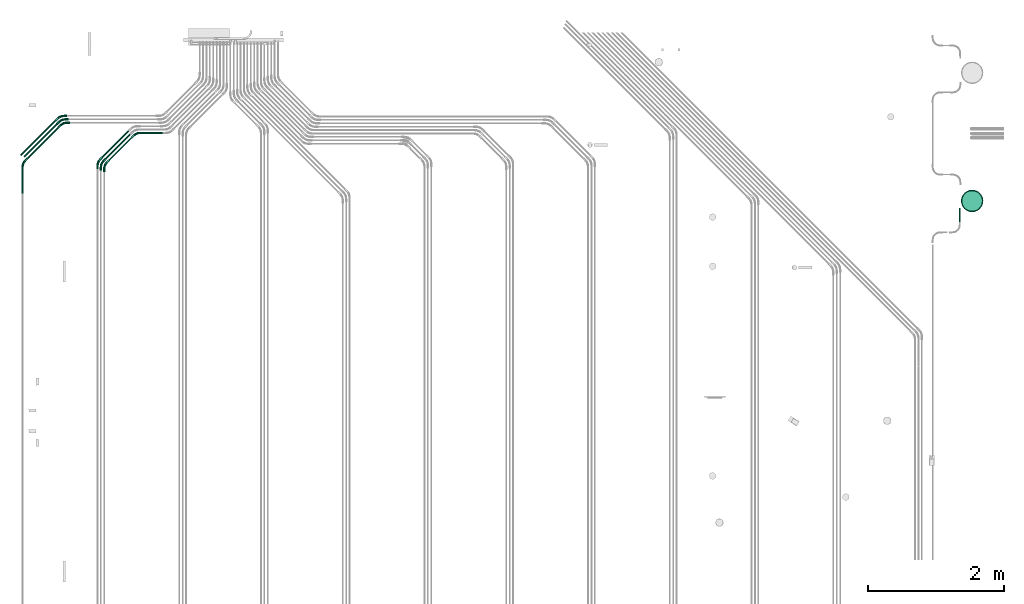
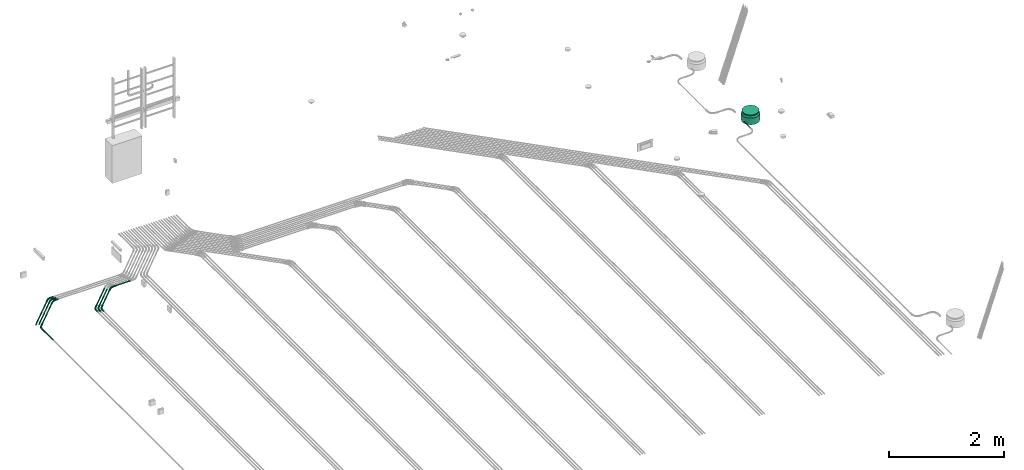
# One storey, part 15 of 51: 9 flow segments, 8 flow fittings, 1 flow terminal.
"""IFC2X3 building model written with IfcOpenShell, lengths in millimetres."""

from ifc_helpers import new_model, entity, si_unit, converted_unit, derived_unit, direction, frame, origin_with_axes, origin_2d_with_axis, place, context, subcontext, project, spatial, hollow_circle, extrude, open_shell, surface_model, source, transform, mapped, type_object, element, save


model = new_model("IFC2X3")

# Units and contexts
model_context = context("Model", 3, precision=0.01, world=frame((0.0, 4.29681676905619e-09, 0.0)), true_north=direction((4.01073788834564e-13, 1.0)))
plan_context = context("Plan", 3, precision=0.01, world=frame((0.0, 4.29681676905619e-09, 0.0)), true_north=direction((4.01073788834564e-13, 1.0)))
body_context = subcontext(model_context, "Body", "Model", "MODEL_VIEW")
ifc_project = project(units=[converted_unit("PLANEANGLEUNIT", "DEGREE", entity("IfcPositiveLengthMeasure", 0.0174532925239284), si_unit("PLANEANGLEUNIT", "RADIAN"), dimensions=[0, 0, 0, 0, 0, 0, 0]), si_unit("AREAUNIT", "SQUARE_METRE"), si_unit("LENGTHUNIT", "METRE", prefix="MILLI"), si_unit("MASSUNIT", "GRAM", prefix="KILO"), si_unit("POWERUNIT", "WATT"), si_unit("PRESSUREUNIT", "PASCAL"), si_unit("FORCEUNIT", "NEWTON", prefix="KILO"), si_unit("ELECTRICVOLTAGEUNIT", "VOLT"), si_unit("ELECTRICCURRENTUNIT", "AMPERE"), si_unit("THERMODYNAMICTEMPERATUREUNIT", "DEGREE_CELSIUS"), si_unit("TIMEUNIT", "SECOND"), si_unit("VOLUMEUNIT", "CUBIC_METRE"), derived_unit("LINEARVELOCITYUNIT", [(si_unit("LENGTHUNIT", "METRE"), 1), (si_unit("TIMEUNIT", "SECOND"), -1)]), derived_unit("VOLUMETRICFLOWRATEUNIT", [(si_unit("VOLUMEUNIT", "CUBIC_METRE"), 1), (si_unit("TIMEUNIT", "SECOND"), -1)]), derived_unit("THERMALTRANSMITTANCEUNIT", [(si_unit("POWERUNIT", "WATT"), 1), (si_unit("THERMODYNAMICTEMPERATUREUNIT", "KELVIN"), -1), (si_unit("AREAUNIT", "SQUARE_METRE"), -1)]), derived_unit("SOUNDPRESSUREUNIT", [(si_unit("PRESSUREUNIT", "PASCAL"), 1)])], contexts=[model_context, plan_context])

# Site, building, storey
site_placement = place(None, frame((0.0, -4.29681676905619e-09, 0.0), z_axis=(0.0, 0.0, 1.0), x_axis=(1.0, 0.0, 0.0)))
site = spatial("IfcSite", under=ifc_project, at=site_placement, Name="ENGM", CompositionType="ELEMENT")
building_placement = place(site_placement, frame((0.0, 4.29681676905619e-09, 0.0), z_axis=(0.0, 0.0, 1.0), x_axis=(1.0, 0.0, 0.0)))
building = spatial("IfcBuilding", under=site, at=building_placement, Name="TI", CompositionType="ELEMENT")
storey_placement = place(building_placement, frame((0.0, 0.0, 210900.0), z_axis=(0.0, 0.0, 1.0), x_axis=(1.0, 0.0, 0.0)))
storey = spatial("IfcBuildingStorey", under=building, at=storey_placement, Name="Nivå F", CompositionType="ELEMENT", Elevation=210900.0)

# Flow fittings
cable_carrier_fitting_type = type_object("IfcCableCarrierFittingType", Name="Trekkerør, glatt bend", PredefinedType="BEND")
shared_shape_1 = source(origin_with_axes(), body_context, "Body", "SurfaceModel", [
    surface_model("IfcShellBasedSurfaceModel", [(-101.90646, 8.46055, -14.6541), (-101.90646, 4.3795, -16.34452), (-101.90646, 0.0, -16.92109), (-101.90646, 14.6541, -8.46055), (-101.90646, -8.46055, -14.6541), (-101.90646, 11.96502, -11.96502), (-101.90646, -16.92109, 0.0), (-101.90646, -16.34452, 4.3795), (-101.90646, -11.96502, -11.96502), (-101.90646, -14.6541, -8.46055), (-101.90646, -4.3795, -16.34452), (-101.90646, -16.34452, -4.3795), (-101.90646, 16.92109, 0.0), (-101.90646, 16.34452, -4.3795), (-101.90646, 16.34452, 4.3795), (-101.90646, 14.6541, 8.46055), (-101.90646, 8.46055, 14.6541), (-101.90646, 11.96502, 11.96502), (-101.90646, 0.0, 16.92109), (-101.90646, 4.3795, 16.34452), (-101.90646, -11.96502, 11.96502), (-101.90646, -8.46055, 14.6541), (-101.90646, -14.6541, 8.46055), (-101.90646, -4.3795, 16.34452), (-54.58849, -16.92109, 0.0), (-54.58849, -16.34452, 4.3795), (-54.58849, -14.6541, 8.46055), (-54.58849, -11.96502, 11.96502), (-54.58849, -8.46055, 14.6541), (-54.58849, -4.3795, 16.34452), (-54.58849, 0.0, 16.92109), (-54.58849, 4.3795, 16.34452), (-54.58849, 8.46055, 14.6541), (-54.58849, 11.96502, 11.96502), (-54.58849, 14.6541, 8.46055), (-54.58849, 16.34452, 4.3795), (-54.58849, 16.92109, 0.0), (-54.58849, 16.34452, -4.3795), (-54.58849, 14.6541, -8.46055), (-54.58849, 11.96502, -11.96502), (-54.58849, 8.46055, -14.6541), (-54.58849, 4.3795, -16.34452), (-54.58849, 0.0, -16.92109), (-54.58849, -4.3795, -16.34452), (-54.58849, -8.46055, -14.6541), (-54.58849, -11.96502, -11.96502), (-54.58849, -14.6541, -8.46055), (-54.58849, -16.34452, -4.3795), (10.9245, -1.31078, 3.47544), (-13.36235, -10.76027, 3.27049), (-16.09967, -11.85394, 0.0), (41.69667, 35.50312, 16.34452), (38.59989, 38.59989, 16.92109), (22.26214, 21.90343, 16.76352), (-19.66365, -2.12805, 15.57779), (-29.58477, -8.16493, 13.36262), (-20.60685, -9.47816, 10.19127), (-34.07223, 17.39409, 6.62821), (-10.25807, 24.76518, 5.65746), (-29.40446, 19.36118, 3.4046), (-3.22837, 7.79397, 16.74683), (-31.22977, -0.25365, 16.76352), (35.50312, 41.69667, 16.34452), (32.61738, 44.5824, 14.6541), (17.47707, 29.1678, 15.66764), (-16.62388, 19.5721, 10.43045), (-25.92736, 13.63005, 13.4985), (5.09993, 25.84703, 13.50914), (-21.17216, 6.44783, 16.79403), (19.76619, 3.00218, 0.0), (-6.56017, 15.83764, 15.71089), (-32.9829, 8.26659, 15.66764), (19.50033, 6.79523, 10.18462), (48.96191, 28.23788, 8.46055), (47.06044, 30.13935, 11.96502), (-0.14544, 0.35113, 13.28643), (-24.85868, 20.8351, 0.0), (44.5824, 32.61738, 14.6541), (26.69306, 15.14611, 13.36262), (8.9424, 34.00903, 7.47137), (8.93562, 35.31889, 4.60583), (25.73601, 8.11548, 6.36012), (-6.07752, -7.50254, 6.29064), (28.23788, 48.96191, 8.46055), (10.0687, 32.56851, 10.38353), (30.13935, 47.06044, 11.96502), (-30.89964, -14.04008, 5.64535), (16.01237, 12.75836, 15.5789), (12.05401, 20.50658, 16.79305), (50.15722, 27.04257, 4.3795), (50.56491, 26.63487, 0.0), (32.88314, 11.79305, 2.69799), (2.8451, 32.31038, 0.0), (26.63487, 50.56491, 0.0), (27.04257, 50.15722, 4.3795), (-32.9829, 8.26659, -15.66764), (16.55602, 18.09298, -16.75967), (38.59989, 38.59989, -16.92109), (41.69667, 35.50312, -16.34452), (30.13935, 47.06044, -11.96502), (32.61738, 44.5824, -14.6541), (8.69552, 27.97131, -13.4985), (-6.56017, 15.83764, -15.71089), (-21.88281, 14.67041, -13.50914), (-31.29267, 18.65579, -4.60583), (-30.37125, 17.72478, -7.47137), (-10.25807, 24.76517, -5.65746), (-1.59965, 3.86188, -15.54749), (17.63726, 9.2923, -13.33594), (-19.1381, -5.92521, -13.33619), (-2.08471, 25.59442, -10.43045), (-30.14906, 15.90977, -10.38353), (-24.73941, 5.56629, -16.79215), (10.41167, 19.53028, -16.79403), (-18.36618, -11.17146, -6.33871), (-28.92763, -11.20296, -10.21852), (-19.67101, 2.27248, -16.75686), (-22.81878, -13.17372, -3.2081), (17.47707, 29.1678, -15.66764), (-30.36783, -4.42984, -15.59506), (24.60567, 18.34093, -15.59506), (35.50312, 41.69667, -16.34452), (7.10167, 34.48251, -3.4046), (27.04257, 50.15722, -4.3795), (44.5824, 32.61738, -14.6541), (47.06044, 30.13935, -11.96502), (28.23788, 48.96191, -8.46055), (11.79322, 36.39219, -6.62821), (1.03493, -2.49855, -10.11808), (48.96191, 28.23788, -8.46055), (28.37661, 12.53324, -10.21852), (20.88626, 5.08744, -6.33871), (25.45054, 6.82009, -3.2081), (2.19574, -5.30098, -3.30061), (50.15722, 27.04257, -4.3795), (60.50143, 83.61607, -4.3795), (72.05875, 72.05875, -16.92109), (68.96197, 75.15552, -16.34452), (66.07624, 78.04126, -14.6541), (63.5982, 80.51929, -11.96502), (61.69674, 82.42076, -8.46055), (75.15552, 68.96197, -16.34452), (80.51929, 63.5982, -11.96502), (78.04126, 66.07624, -14.6541), (83.61607, 60.50143, -4.3795), (82.42076, 61.69674, -8.46055), (83.61607, 60.50143, 4.3795), (84.02377, 60.09373, 0.0), (75.15552, 68.96197, 16.34452), (60.50143, 83.61607, 4.3795), (61.69674, 82.42076, 8.46055), (66.07624, 78.04126, 14.6541), (72.05875, 72.05875, 16.92109), (63.5982, 80.51929, 11.96502), (68.96197, 75.15552, 16.34452), (80.51929, 63.5982, 11.96502), (82.42076, 61.69674, 8.46055), (78.04126, 66.07624, 14.6541), (60.09373, 84.02377, 0.0)], [open_shell([[[0, 1, 2]], [[3, 0, 2]], [[4, 3, 2]], [[5, 0, 3]], [[3, 6, 7]], [[8, 9, 4]], [[2, 10, 4]], [[9, 11, 4]], [[11, 3, 4]], [[3, 11, 6]], [[12, 13, 3]], [[12, 7, 14]], [[14, 7, 15]], [[16, 17, 18]], [[15, 18, 17]], [[18, 19, 16]], [[20, 21, 22]], [[15, 7, 22]], [[23, 18, 21]], [[15, 22, 21]], [[15, 21, 18]], [[3, 7, 12]], [[7, 24, 25]], [[26, 22, 25]], [[21, 27, 28]], [[26, 27, 20]], [[23, 28, 29]], [[24, 7, 6]], [[25, 22, 7]], [[26, 20, 22]], [[27, 21, 20]], [[23, 21, 28]], [[29, 18, 23]], [[29, 30, 18]], [[16, 31, 32]], [[33, 17, 32]], [[14, 34, 35]], [[33, 34, 15]], [[12, 35, 36]], [[31, 19, 30]], [[31, 16, 19]], [[30, 19, 18]], [[32, 17, 16]], [[33, 15, 17]], [[14, 15, 34]], [[35, 12, 14]], [[13, 36, 37]], [[38, 3, 37]], [[0, 39, 40]], [[38, 39, 5]], [[1, 40, 41]], [[36, 13, 12]], [[37, 3, 13]], [[38, 5, 3]], [[39, 0, 5]], [[1, 0, 40]], [[41, 2, 1]], [[41, 42, 2]], [[4, 43, 44]], [[45, 8, 44]], [[11, 46, 47]], [[45, 46, 9]], [[6, 47, 24]], [[43, 10, 42]], [[43, 4, 10]], [[42, 10, 2]], [[44, 8, 4]], [[45, 9, 8]], [[11, 9, 46]], [[47, 6, 11]], [[48, 49, 50]], [[49, 24, 50]], [[51, 52, 53]], [[29, 28, 54]], [[27, 55, 28]], [[56, 27, 26]], [[57, 58, 59]], [[60, 61, 54]], [[61, 30, 29]], [[62, 63, 64]], [[65, 66, 67]], [[31, 30, 68]], [[48, 50, 69]], [[67, 66, 70]], [[33, 32, 66]], [[65, 58, 57]], [[71, 32, 31]], [[72, 73, 74]], [[56, 72, 75]], [[59, 76, 36]], [[74, 77, 78]], [[36, 35, 59]], [[58, 79, 80]], [[81, 72, 82]], [[70, 71, 68]], [[83, 84, 85]], [[25, 49, 86]], [[34, 33, 65]], [[87, 77, 51]], [[54, 87, 60]], [[72, 56, 82]], [[88, 70, 68]], [[72, 81, 73]], [[73, 81, 89]], [[88, 62, 64]], [[78, 72, 74]], [[60, 88, 68]], [[90, 89, 91]], [[48, 81, 82]], [[55, 56, 75]], [[84, 67, 85]], [[59, 92, 76]], [[26, 86, 56]], [[92, 80, 93]], [[75, 78, 87]], [[80, 79, 94]], [[87, 51, 53]], [[70, 64, 67]], [[61, 68, 30]], [[65, 84, 79]], [[60, 53, 88]], [[67, 63, 85]], [[88, 52, 62]], [[65, 33, 66]], [[75, 87, 54]], [[91, 81, 48]], [[66, 32, 71]], [[55, 54, 28]], [[79, 84, 83]], [[67, 84, 65]], [[56, 55, 27]], [[54, 55, 75]], [[87, 78, 77]], [[72, 78, 75]], [[94, 79, 83]], [[65, 79, 58]], [[93, 80, 94]], [[92, 58, 80]], [[54, 61, 29]], [[68, 61, 60]], [[88, 53, 52]], [[87, 53, 60]], [[48, 82, 49]], [[91, 48, 69]], [[90, 91, 69]], [[81, 91, 89]], [[86, 49, 82]], [[24, 49, 25]], [[56, 86, 82]], [[26, 25, 86]], [[68, 71, 31]], [[66, 71, 70]], [[67, 64, 63]], [[88, 64, 70]], [[57, 35, 34]], [[92, 59, 58]], [[35, 57, 59]], [[65, 57, 34]], [[40, 95, 41]], [[96, 97, 98]], [[99, 100, 101]], [[102, 95, 103]], [[76, 104, 36]], [[104, 105, 37]], [[104, 106, 105]], [[107, 108, 109]], [[105, 110, 111]], [[40, 39, 103]], [[110, 99, 101]], [[112, 102, 113]], [[114, 46, 115]], [[116, 113, 96]], [[24, 47, 117]], [[110, 101, 103]], [[114, 47, 46]], [[101, 100, 118]], [[119, 44, 43]], [[112, 41, 95]], [[46, 45, 115]], [[45, 44, 109]], [[107, 119, 116]], [[113, 116, 112]], [[96, 98, 120]], [[113, 121, 97]], [[122, 76, 92]], [[112, 116, 42]], [[93, 123, 122]], [[124, 125, 108]], [[43, 42, 116]], [[110, 126, 99]], [[102, 103, 101]], [[106, 122, 127]], [[100, 121, 118]], [[128, 115, 109]], [[109, 44, 119]], [[127, 110, 106]], [[128, 109, 108]], [[113, 102, 118]], [[120, 98, 124]], [[113, 97, 96]], [[129, 130, 125]], [[107, 120, 108]], [[42, 41, 112]], [[107, 116, 96]], [[128, 130, 131]], [[128, 131, 114]], [[69, 132, 90]], [[69, 133, 132]], [[50, 117, 133]], [[133, 117, 114]], [[133, 69, 50]], [[129, 134, 131]], [[130, 108, 125]], [[122, 92, 93]], [[111, 103, 39]], [[38, 111, 39]], [[105, 111, 38]], [[103, 111, 110]], [[109, 115, 45]], [[114, 115, 128]], [[131, 130, 129]], [[108, 130, 128]], [[37, 105, 38]], [[110, 105, 106]], [[36, 104, 37]], [[76, 106, 104]], [[116, 119, 43]], [[109, 119, 107]], [[108, 120, 124]], [[96, 120, 107]], [[114, 131, 133]], [[132, 133, 131]], [[103, 95, 40]], [[112, 95, 102]], [[113, 118, 121]], [[101, 118, 102]], [[24, 117, 50]], [[47, 114, 117]], [[131, 134, 132]], [[90, 132, 134]], [[127, 123, 126]], [[76, 122, 106]], [[123, 127, 122]], [[110, 127, 126]], [[135, 136, 137]], [[135, 137, 138]], [[139, 140, 135]], [[139, 135, 138]], [[136, 135, 141]], [[141, 142, 143]], [[142, 141, 144]], [[142, 144, 145]], [[141, 135, 144]], [[144, 146, 147]], [[144, 135, 148]], [[135, 149, 150]], [[150, 151, 135]], [[151, 152, 135]], [[151, 150, 153]], [[151, 154, 152]], [[146, 155, 156]], [[155, 146, 157]], [[146, 148, 157]], [[146, 144, 148]], [[152, 148, 135]], [[149, 135, 158]], [[89, 147, 146]], [[156, 73, 146]], [[77, 155, 157]], [[156, 155, 74]], [[51, 157, 148]], [[147, 89, 90]], [[146, 73, 89]], [[156, 74, 73]], [[155, 77, 74]], [[51, 77, 157]], [[148, 52, 51]], [[148, 152, 52]], [[63, 154, 151]], [[153, 85, 151]], [[94, 150, 149]], [[153, 150, 83]], [[93, 149, 158]], [[154, 62, 152]], [[154, 63, 62]], [[152, 62, 52]], [[151, 85, 63]], [[153, 83, 85]], [[94, 83, 150]], [[149, 93, 94]], [[93, 158, 135]], [[140, 123, 135]], [[138, 137, 121]], [[139, 138, 99]], [[126, 140, 139]], [[140, 126, 123]], [[123, 93, 135]], [[99, 138, 100]], [[100, 138, 121]], [[137, 97, 121]], [[99, 126, 139]], [[137, 136, 97]], [[124, 141, 143]], [[142, 125, 143]], [[134, 145, 144]], [[142, 145, 129]], [[90, 144, 147]], [[141, 98, 136]], [[141, 124, 98]], [[136, 98, 97]], [[143, 125, 124]], [[142, 129, 125]], [[134, 129, 145]], [[144, 90, 134]]])]),
])
for number, where, z_axis, x_axis, name in (
    (1, (598025.0, 697558.36474, -56.7999999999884), (0.0, 0.0, 1.0), (-0.707106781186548, -0.707106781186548, 0.0), "Trekkerør, glatt bend"),
    (2, (598621.14175, 698154.50648, -56.7999999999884), (0.0, 0.0, 1.0), (-1.0, 0.0, 0.0), "Trekkerør, glatt bend"),
    (3, (598600.43107, 698204.50648, -56.7999999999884), (0.0, 0.0, 1.0), (-1.0, 0.0, 0.0), "Trekkerør, glatt bend"),
    (4, (598579.72039, 698254.50648, -56.7999999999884), (0.0, 0.0, 1.0), (-1.0, 0.0, 0.0), "Trekkerør, glatt bend"),
    (5, (599695.40985, 698004.50648, -56.7999999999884), (0.0, 0.0, 1.0), (-1.0, 0.0, 0.0), "Trekkerør, glatt bend"),
    (6, (599125.0, 697575.24891, -56.7999999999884), (0.0, 0.0, 1.0), (-0.707106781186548, -0.707106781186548, 0.0), "Trekkerør, glatt bend"),
    (7, (599225.0, 697534.09663, -56.7999999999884), (0.0, 0.0, 1.0), (-0.707106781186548, -0.707106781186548, 0.0), "Trekkerør, glatt bend"),
    (8, (599175.0, 697554.53824, -56.7999999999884), (0.0, 0.0, 1.0), (-0.707106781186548, -0.707106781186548, 0.0), "Trekkerør, glatt bend"),
):
    element("IfcFlowFitting", number, at=place(storey_placement, frame(where, z_axis=z_axis, x_axis=x_axis)), inside=storey, type_object=cable_carrier_fitting_type, Name=name, context=body_context, shape_type="MappedRepresentation", body=[
        mapped(shared_shape_1, transform((0.0, 0.0, 0.0), scale=1.0)),
    ])

# Flow segments
cable_carrier_segment_type = type_object("IfcCableCarrierSegmentType", Name="Trekkerør, korrugert", PredefinedType="CONDUITSEGMENT")
shared_shape_2 = source(origin_with_axes(), body_context, "Body", "SweptSolid", [
    extrude(hollow_circle(Radius=10.0, WallThickness=2.0, at=origin_2d_with_axis()), frame((0.0, 0.0, 0.0), z_axis=(1.0, 0.0, 0.0), x_axis=(0.0, 1.0, 0.0)), (0.0, 0.0, 1.0), 200.4),
])
flow_segment_1_placement = place(storey_placement, frame((611780.64511, 696699.96407, -110.0), z_axis=(0.0, 0.0, 1.0), x_axis=(0.0, 1.0, 0.0)))
element("IfcFlowSegment", 9, at=flow_segment_1_placement, inside=storey, type_object=cable_carrier_segment_type, Name="Trekkerør, korrugert", context=body_context, shape_type="MappedRepresentation", body=[
    mapped(shared_shape_2, transform((0.0, 0.0, 0.0), scale=1.0)),
])
shared_shape_3 = source(origin_with_axes(), body_context, "Body", "SweptSolid", [
    extrude(hollow_circle(Radius=12.5, WallThickness=2.0, at=origin_2d_with_axis()), frame((0.0, 0.0, 0.0), z_axis=(1.0, 0.0, 0.0), x_axis=(0.0, 1.0, 0.0)), (0.0, 0.0, 1.0), 639.3),
])
flow_segment_2_placement = place(storey_placement, frame((598097.05875, 697630.42349, -56.7999999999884), z_axis=(0.0, 0.0, 1.0), x_axis=(0.707106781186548, 0.707106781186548, 0.0)))
element("IfcFlowSegment", 10, at=flow_segment_2_placement, inside=storey, type_object=cable_carrier_segment_type, Name="Trekkerør, korrugert", context=body_context, shape_type="MappedRepresentation", body=[
    mapped(shared_shape_3, transform((0.0, 0.0, 0.0), scale=1.0)),
])
shared_shape_4 = source(origin_with_axes(), body_context, "Body", "SweptSolid", [
    extrude(hollow_circle(Radius=12.5, WallThickness=2.0, at=origin_2d_with_axis()), frame((0.0, 0.0, 0.0), z_axis=(1.0, 0.0, 0.0), x_axis=(0.0, 1.0, 0.0)), (0.0, 0.0, 1.0), 680.7),
])
flow_segment_3_placement = place(storey_placement, frame((598047.05875, 697651.13416, -56.7999999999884), z_axis=(0.0, 0.0, 1.0), x_axis=(0.707106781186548, 0.707106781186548, 0.0)))
element("IfcFlowSegment", 11, at=flow_segment_3_placement, inside=storey, type_object=cable_carrier_segment_type, Name="Trekkerør, korrugert", context=body_context, shape_type="MappedRepresentation", body=[
    mapped(shared_shape_4, transform((0.0, 0.0, 0.0), scale=1.0)),
])
shared_shape_5 = source(origin_with_axes(), body_context, "Body", "SweptSolid", [
    extrude(hollow_circle(Radius=12.5, WallThickness=2.0, at=origin_2d_with_axis()), frame((0.0, 0.0, 0.0), z_axis=(1.0, 0.0, 0.0), x_axis=(0.0, 1.0, 0.0)), (0.0, 0.0, 1.0), 722.1),
])
flow_segment_4_placement = place(storey_placement, frame((597997.05875, 697671.84484, -56.7999999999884), z_axis=(0.0, 0.0, 1.0), x_axis=(0.707106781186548, 0.707106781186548, 0.0)))
element("IfcFlowSegment", 12, at=flow_segment_4_placement, inside=storey, type_object=cable_carrier_segment_type, Name="Trekkerør, korrugert", context=body_context, shape_type="MappedRepresentation", body=[
    mapped(shared_shape_5, transform((0.0, 0.0, 0.0), scale=1.0, scale2=1.0, scale3=1.0, uniform=False)),
])
shared_shape_6 = source(origin_with_axes(), body_context, "Body", "SweptSolid", [
    extrude(hollow_circle(Radius=12.5, WallThickness=2.0, at=origin_2d_with_axis()), frame((0.0, 0.0, 0.0), z_axis=(1.0, 0.0, 0.0), x_axis=(0.0, 1.0, 0.0)), (0.0, 0.0, 1.0), 544.7),
])
flow_segment_5_placement = place(storey_placement, frame((599197.05875, 697647.30767, -56.7999999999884), z_axis=(0.0, 0.0, 1.0), x_axis=(0.707106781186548, 0.707106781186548, 0.0)))
element("IfcFlowSegment", 13, at=flow_segment_5_placement, inside=storey, type_object=cable_carrier_segment_type, Name="Trekkerør, korrugert", context=body_context, shape_type="MappedRepresentation", body=[
    mapped(shared_shape_6, transform((0.0, 0.0, 0.0), scale=1.0)),
])
shared_shape_7 = source(origin_with_axes(), body_context, "Body", "SweptSolid", [
    extrude(hollow_circle(Radius=12.5, WallThickness=2.0, at=origin_2d_with_axis()), frame((0.0, 0.0, 0.0), z_axis=(1.0, 0.0, 0.0), x_axis=(0.0, 1.0, 0.0)), (0.0, 0.0, 1.0), 283.8),
])
flow_segment_6_placement = place(storey_placement, frame((599797.31631, 698004.50648, -56.7999999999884), z_axis=(0.0, 0.0, 1.0), x_axis=(1.0, 0.0, 0.0)))
element("IfcFlowSegment", 14, at=flow_segment_6_placement, inside=storey, type_object=cable_carrier_segment_type, Name="Trekkerør, korrugert", context=body_context, shape_type="MappedRepresentation", body=[
    mapped(shared_shape_7, transform((0.0, 0.0, 0.0), scale=1.0)),
])
shared_shape_8 = source(origin_with_axes(), body_context, "Body", "SweptSolid", [
    extrude(hollow_circle(Radius=12.5, WallThickness=2.0, at=origin_2d_with_axis()), frame((0.0, 0.0, 0.0), z_axis=(1.0, 0.0, 0.0), x_axis=(0.0, 1.0, 0.0)), (0.0, 0.0, 1.0), 503.2),
])
flow_segment_7_placement = place(storey_placement, frame((599247.05875, 697626.59699, -56.7999999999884), z_axis=(0.0, 0.0, 1.0), x_axis=(0.707106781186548, 0.707106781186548, 0.0)))
element("IfcFlowSegment", 15, at=flow_segment_7_placement, inside=storey, type_object=cable_carrier_segment_type, Name="Trekkerør, korrugert", context=body_context, shape_type="MappedRepresentation", body=[
    mapped(shared_shape_8, transform((0.0, 0.0, 0.0), scale=1.0)),
])
shared_shape_9 = source(origin_with_axes(), body_context, "Body", "SweptSolid", [
    extrude(hollow_circle(Radius=12.5, WallThickness=2.0, at=origin_2d_with_axis()), frame((0.0, 0.0, 0.0), z_axis=(1.0, 0.0, 0.0), x_axis=(0.0, 1.0, 0.0)), (0.0, 0.0, 1.0), 461.4),
])
flow_segment_8_placement = place(storey_placement, frame((599297.05875, 697606.15538, -56.7999999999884), z_axis=(0.0, 0.0, 1.0), x_axis=(0.707106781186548, 0.707106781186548, 0.0)))
element("IfcFlowSegment", 16, at=flow_segment_8_placement, inside=storey, type_object=cable_carrier_segment_type, Name="Trekkerør, korrugert", context=body_context, shape_type="MappedRepresentation", body=[
    mapped(shared_shape_9, transform((0.0, 0.0, 0.0), scale=1.0)),
])
shared_shape_10 = source(origin_with_axes(), body_context, "Body", "SweptSolid", [
    extrude(hollow_circle(Radius=12.5, WallThickness=2.0, at=origin_2d_with_axis()), frame((0.0, 0.0, 0.0), z_axis=(1.0, 0.0, 0.0), x_axis=(0.0, 1.0, 0.0)), (0.0, 0.0, 1.0), 340.0),
])
flow_segment_9_placement = place(storey_placement, frame((598025.0, 697456.45827, -56.7999999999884), z_axis=(0.0, 0.0, 1.0), x_axis=(0.0, -1.0, 0.0)))
element("IfcFlowSegment", 17, at=flow_segment_9_placement, inside=storey, type_object=cable_carrier_segment_type, Name="Trekkerør, korrugert", context=body_context, shape_type="MappedRepresentation", body=[
    mapped(shared_shape_10, transform((0.0, 0.0, 0.0), scale=1.0)),
])

# Flow terminal
light_fixture_type = type_object("IfcLightFixtureType", Name="IB3223 Zumtobel Thorn MICA SLIM I 9L90 ACC 8D 840 RS SF", PredefinedType="NOTDEFINED")
shared_shape_11 = source(origin_with_axes(), body_context, "Body", "SurfaceModel", [
    surface_model("IfcShellBasedSurfaceModel", [(98.84497, 114.07318, 3.0), (98.84497, 114.07318, 6.02001), (126.97919, 81.60457, 6.02001), (126.97919, 81.60457, 3.0), (126.97919, -81.60457, 6.02001), (98.84497, -114.07318, 6.02001), (98.84497, -114.07318, 3.0), (126.97919, -81.60457, 3.0), (-115.55577, 115.55577, -193.98), (-141.52634, 81.71027, -53.97999), (-115.55577, 115.55577, -53.97999), (-141.52634, 81.71027, -193.98), (-157.85212, 42.29635, -53.97999), (-141.52634, -81.71027, -53.97999), (-157.85212, -42.29635, -53.97999), (-141.52634, -81.71027, -193.98), (-115.55577, -115.55577, -53.97999), (-115.55577, -115.55577, -193.98), (115.55577, 115.55577, -193.98), (0.0, 0.0, -193.98), (81.71027, 141.52634, -193.98), (0.0, 163.42053, -193.98), (42.29635, 157.85212, -193.98), (-163.42053, 0.0, -193.98), (-157.85212, 42.29635, -193.98), (81.71027, -141.52634, -193.98), (115.55577, -115.55577, -193.98), (42.29635, -157.85212, -193.98), (0.0, -163.42053, -193.98), (-157.85212, -42.29635, -193.98), (0.0, 0.0, 6.02001), (150.94045, 0.0, 6.02001), (144.8263, 42.52484, 6.02001), (-144.8263, 42.52484, 6.02001), (-150.94045, 0.0, 6.02001), (-62.70293, 137.30026, 6.02001), (-98.84497, 114.07318, 6.02001), (144.8263, -42.52484, 6.02001), (-98.84497, -114.07318, 6.02001), (-62.70293, -137.30026, 6.02001), (-144.8263, -42.52484, 6.02001), (121.68032, 78.1992, -18.66209), (121.68032, 78.1992, 3.0), (138.78267, 40.75027, 3.0), (94.72015, 109.31289, -18.66209), (94.72015, 109.31289, 3.0), (138.78267, 40.75027, -18.66209), (144.64168, 0.0, 3.0), (138.78267, -40.75027, 3.0), (121.68032, -78.1992, 3.0), (121.68032, -78.1992, -18.66209), (138.78267, -40.75027, -18.66209), (94.72015, -109.31289, 3.0), (94.72015, -109.31289, -18.66209), (-138.78267, 40.75027, -18.66209), (-94.72015, 109.31289, -18.66209), (-81.71027, 141.52634, -53.97999), (-20.58466, 143.16943, -18.66209), (0.0, 163.42053, -53.97999), (-42.29635, 157.85212, -53.97999), (60.08633, 131.57069, -18.66209), (81.71027, 141.52634, -53.97999), (20.58466, 143.16943, -18.66209), (42.29635, 157.85212, -53.97999), (144.64168, 0.0, -18.66209), (163.42053, 0.0, -53.97999), (157.85212, 42.29635, -53.97999), (81.71027, -141.52634, -53.97999), (60.08633, -131.57069, -18.66209), (42.29635, -157.85212, -53.97999), (20.58466, -143.16943, -18.66209), (157.85212, -42.29635, -53.97999), (-42.29635, -157.85212, -53.97999), (0.0, -163.42053, -53.97999), (-20.58466, -143.16943, -18.66209), (-138.78267, -40.75027, -18.66209), (-81.71027, -141.52634, -53.97999), (-94.72015, -109.31289, -18.66209), (-144.8263, -42.52484, 3.0), (-126.97919, -81.60457, 3.0), (-126.97919, -81.60457, 6.02001), (-62.70293, -137.30026, 3.0), (-98.84497, -114.07318, 3.0), (-21.48107, -149.40409, 6.02001), (-21.48107, -149.40409, 3.0), (-150.94045, 0.0, 3.0), (21.48107, -149.40409, 3.0), (21.48107, -149.40409, 6.02001), (62.70293, -137.30026, 3.0), (62.70293, -137.30026, 6.02001), (144.8263, -42.52484, 3.0), (150.94045, 0.0, 3.0), (144.8263, 42.52484, 3.0), (62.70293, 137.30026, 6.02001), (62.70293, 137.30026, 3.0), (21.48107, 149.40409, 6.02001), (21.48107, 149.40409, 3.0), (-21.48107, 149.40409, 3.0), (-21.48107, 149.40409, 6.02001), (-62.70293, 137.30026, 3.0), (-98.84497, 114.07318, 3.0), (-126.97919, 81.60457, 6.02001), (-144.8263, 42.52484, 3.0), (-126.97919, 81.60457, 3.0), (60.08633, -131.57069, 3.0), (20.58466, -143.16943, 3.0), (-20.58466, -143.16943, 3.0), (-138.78267, -40.75027, 3.0), (-121.68032, -78.1992, 3.0), (-144.64168, 0.0, 3.0), (-60.08633, -131.57069, 3.0), (-94.72015, -109.31289, 3.0), (60.08633, 131.57069, 3.0), (20.58466, 143.16943, 3.0), (-20.58466, 143.16943, 3.0), (-60.08633, 131.57069, 3.0), (-94.72015, 109.31289, 3.0), (-121.68032, 78.1992, 3.0), (-138.78267, 40.75027, 3.0), (-81.71027, -141.52634, -193.98), (-42.29635, -157.85212, -193.98), (-163.42053, 0.0, -53.97999), (115.55577, -115.55577, -53.97999), (157.85212, -42.29635, -193.98), (141.52634, -81.71027, -193.98), (141.52634, -81.71027, -53.97999), (163.42053, 0.0, -193.98), (157.85212, 42.29635, -193.98), (141.52634, 81.71027, -53.97999), (115.55577, 115.55577, -53.97999), (141.52634, 81.71027, -193.98), (-81.71027, 141.52634, -193.98), (-42.29635, 157.85212, -193.98), (-121.68032, -78.1992, -18.66209), (-60.08633, -131.57069, -18.66209), (-144.64168, 0.0, -18.66209), (-60.08633, 131.57069, -18.66209), (-121.68032, 78.1992, -18.66209)], [open_shell([[[0, 1, 2]], [[0, 2, 3]], [[4, 5, 6]], [[7, 4, 6]], [[8, 9, 10]], [[11, 12, 9]], [[13, 14, 15]], [[16, 13, 17]], [[18, 19, 20]], [[19, 21, 22]], [[8, 19, 11]], [[19, 23, 24]], [[25, 19, 26]], [[27, 28, 19]], [[15, 19, 17]], [[29, 23, 19]], [[30, 2, 1]], [[31, 32, 30]], [[33, 34, 30]], [[30, 35, 36]], [[5, 4, 30]], [[30, 37, 31]], [[38, 39, 30]], [[30, 34, 40]], [[41, 42, 43]], [[44, 45, 42]], [[46, 43, 47]], [[46, 41, 43]], [[48, 49, 50]], [[47, 48, 51]], [[49, 52, 53]], [[48, 50, 51]], [[54, 9, 12]], [[55, 56, 10]], [[57, 58, 59]], [[60, 44, 61]], [[62, 60, 63]], [[64, 65, 66]], [[62, 58, 57]], [[67, 53, 68]], [[69, 68, 70]], [[71, 65, 64]], [[72, 73, 74]], [[14, 13, 75]], [[16, 76, 77]], [[74, 73, 70]], [[34, 78, 40]], [[40, 79, 80]], [[39, 38, 81]], [[82, 38, 80]], [[83, 39, 84]], [[34, 85, 78]], [[40, 78, 79]], [[38, 82, 81]], [[39, 81, 84]], [[82, 80, 79]], [[84, 86, 83]], [[87, 88, 89]], [[89, 6, 5]], [[37, 4, 7]], [[31, 37, 90]], [[87, 86, 88]], [[89, 88, 6]], [[37, 7, 90]], [[31, 90, 91]], [[83, 86, 87]], [[31, 92, 32]], [[32, 3, 2]], [[93, 1, 94]], [[95, 93, 96]], [[31, 91, 92]], [[32, 92, 3]], [[1, 0, 94]], [[93, 94, 96]], [[96, 97, 95]], [[98, 99, 35]], [[35, 100, 36]], [[33, 101, 102]], [[103, 101, 36]], [[34, 33, 85]], [[98, 97, 99]], [[35, 99, 100]], [[101, 103, 102]], [[33, 102, 85]], [[103, 36, 100]], [[95, 97, 98]], [[90, 47, 91]], [[48, 47, 90]], [[7, 49, 48]], [[6, 49, 7]], [[90, 7, 48]], [[88, 52, 6]], [[49, 6, 52]], [[104, 52, 88]], [[86, 105, 104]], [[106, 105, 86]], [[88, 86, 104]], [[79, 107, 108]], [[78, 107, 79]], [[82, 79, 108]], [[78, 85, 109]], [[107, 78, 109]], [[84, 110, 106]], [[81, 110, 84]], [[86, 84, 106]], [[82, 111, 81]], [[110, 81, 111]], [[108, 111, 82]], [[45, 94, 0]], [[112, 94, 45]], [[42, 45, 0]], [[113, 96, 112]], [[94, 112, 96]], [[114, 96, 113]], [[47, 92, 91]], [[43, 92, 47]], [[42, 3, 43]], [[92, 43, 3]], [[0, 3, 42]], [[115, 97, 114]], [[96, 114, 97]], [[99, 97, 115]], [[116, 100, 99]], [[117, 100, 116]], [[115, 116, 99]], [[118, 103, 117]], [[100, 117, 103]], [[102, 103, 118]], [[85, 102, 109]], [[118, 109, 102]], [[76, 119, 72]], [[76, 16, 17]], [[73, 72, 120]], [[29, 121, 23]], [[29, 14, 121]], [[17, 13, 15]], [[17, 119, 76]], [[15, 14, 29]], [[119, 120, 72]], [[120, 28, 73]], [[25, 122, 67]], [[27, 67, 69]], [[123, 65, 71]], [[124, 71, 125]], [[26, 125, 122]], [[28, 27, 69]], [[27, 25, 67]], [[25, 26, 122]], [[26, 124, 125]], [[71, 124, 123]], [[123, 126, 65]], [[73, 28, 69]], [[127, 128, 66]], [[126, 66, 65]], [[20, 63, 61]], [[18, 61, 129]], [[130, 129, 128]], [[127, 130, 128]], [[66, 126, 127]], [[18, 20, 61]], [[129, 130, 18]], [[22, 63, 20]], [[22, 21, 58]], [[63, 22, 58]], [[131, 10, 56]], [[132, 56, 59]], [[24, 121, 12]], [[21, 132, 59]], [[132, 131, 56]], [[131, 8, 10]], [[8, 11, 9]], [[12, 11, 24]], [[24, 23, 121]], [[58, 21, 59]], [[123, 19, 126]], [[124, 19, 123]], [[26, 19, 124]], [[25, 27, 19]], [[15, 29, 19]], [[28, 120, 19]], [[119, 19, 120]], [[17, 19, 119]], [[22, 20, 19]], [[19, 130, 127]], [[19, 18, 130]], [[19, 127, 126]], [[131, 132, 19]], [[8, 131, 19]], [[24, 11, 19]], [[21, 19, 132]], [[37, 30, 4]], [[5, 30, 89]], [[87, 89, 30]], [[30, 40, 80]], [[83, 30, 39]], [[80, 38, 30]], [[30, 83, 87]], [[30, 1, 93]], [[30, 32, 2]], [[93, 95, 30]], [[30, 98, 35]], [[30, 101, 33]], [[101, 30, 36]], [[98, 30, 95]], [[108, 107, 133]], [[75, 107, 109]], [[110, 111, 134]], [[77, 111, 108]], [[74, 106, 110]], [[135, 75, 109]], [[75, 133, 107]], [[111, 77, 134]], [[110, 134, 74]], [[133, 77, 108]], [[74, 70, 106]], [[105, 68, 104]], [[104, 53, 52]], [[105, 70, 68]], [[104, 68, 53]], [[47, 51, 64]], [[50, 49, 53]], [[106, 70, 105]], [[62, 113, 112]], [[60, 112, 45]], [[47, 64, 46]], [[42, 41, 44]], [[45, 44, 60]], [[60, 62, 112]], [[62, 57, 113]], [[116, 115, 55]], [[115, 114, 136]], [[118, 117, 54]], [[137, 117, 116]], [[109, 118, 135]], [[114, 57, 136]], [[115, 136, 55]], [[117, 137, 54]], [[118, 54, 135]], [[137, 116, 55]], [[113, 57, 114]], [[135, 14, 75]], [[75, 13, 133]], [[134, 77, 76]], [[16, 77, 133]], [[74, 134, 72]], [[135, 121, 14]], [[133, 13, 16]], [[76, 72, 134]], [[51, 50, 125]], [[53, 122, 50]], [[64, 51, 71]], [[73, 69, 70]], [[67, 68, 69]], [[125, 50, 122]], [[71, 51, 125]], [[122, 53, 67]], [[64, 66, 46]], [[46, 128, 41]], [[129, 44, 41]], [[66, 128, 46]], [[129, 61, 44]], [[41, 128, 129]], [[61, 63, 60]], [[63, 58, 62]], [[57, 59, 136]], [[136, 56, 55]], [[54, 137, 9]], [[10, 137, 55]], [[135, 54, 12]], [[59, 56, 136]], [[9, 137, 10]], [[135, 12, 121]]])]),
])
flow_terminal_placement = place(storey_placement, frame((611962.50563, 697005.77522, 10.0), z_axis=(0.0, 0.0, 1.0), x_axis=(1.0, 0.0, 0.0)))
element("IfcFlowTerminal", 18, at=flow_terminal_placement, inside=storey, type_object=light_fixture_type, Name="IB3223 Zumtobel Thorn MICA SLIM I 9L90 ACC 8D 840 RS SF", context=body_context, shape_type="MappedRepresentation", body=[
    mapped(shared_shape_11, transform((0.0, 0.0, 0.0), scale=1.0)),
])

save(model, "model.ifc")
